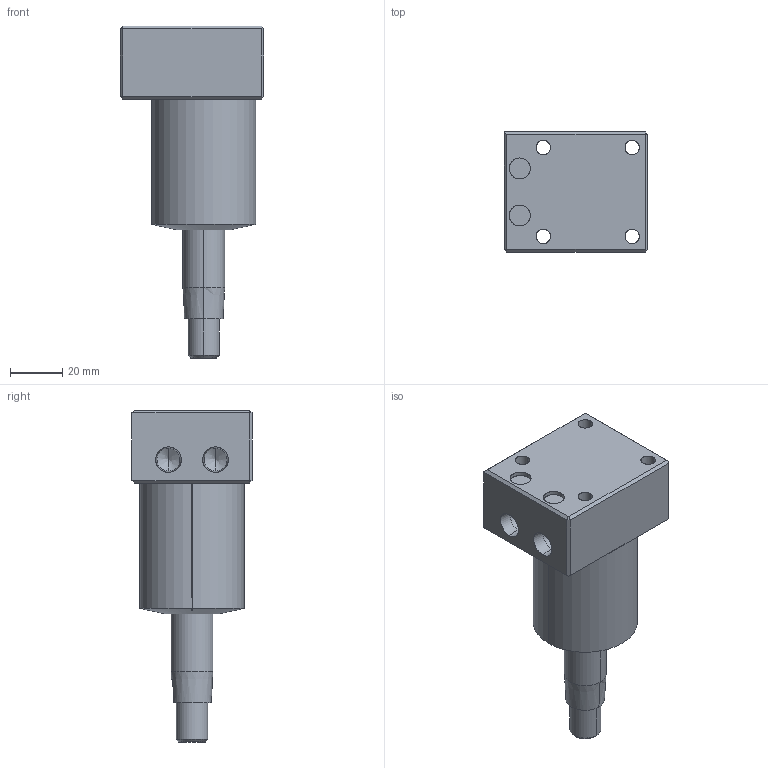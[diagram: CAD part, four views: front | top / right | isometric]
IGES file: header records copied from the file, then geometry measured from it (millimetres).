
Start section: SolidWorks IGES file using analytic representation for surfaces
Global section: file name: E:\ALL SSVT IGS MODEL\ALL-SWING-IGS\SWING-40\SWING-BM-TOP-LH-RH\SB03-401-RP-TAPER.IGS; native system: SolidWorks 2019; preprocessor: SolidWorks 2019; author: SSVT; date: 210822.110724; units: millimetre
Bounding box: 55 x 46 x 127 mm (x, y, z)
Surface area: 26309.5 mm2 (no closed solid volume)
Topology: 0 solids, 0 shells, 70 faces, 1000 edges, 996 vertices
Faces by surface type: revolution 38, bspline 32
